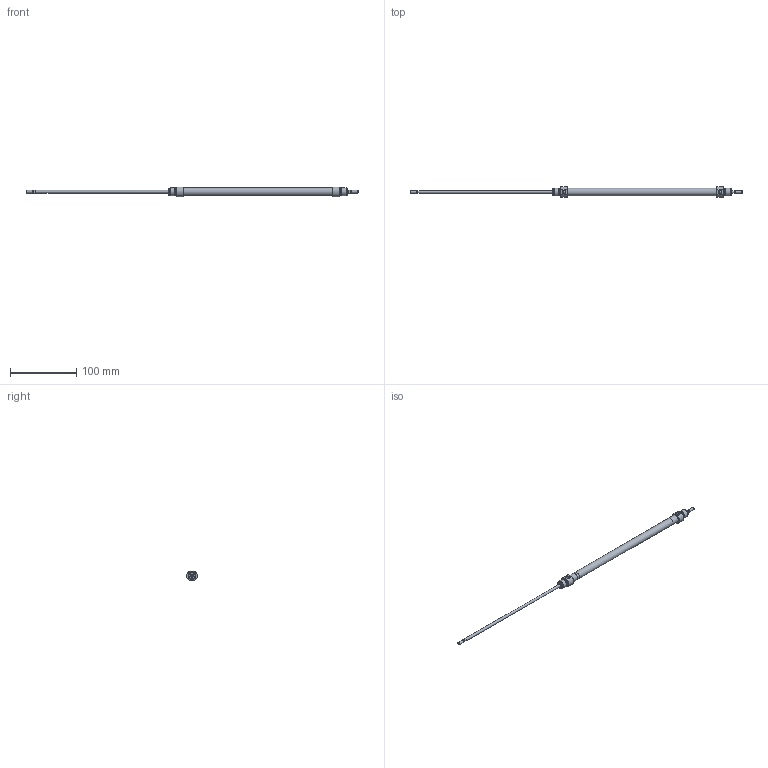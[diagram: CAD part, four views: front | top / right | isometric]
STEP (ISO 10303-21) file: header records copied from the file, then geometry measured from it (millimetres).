
FILE_DESCRIPTION( ( 'STEP AP203' ), '1' );
FILE_NAME( '//expscmdclustefs.cadenas.external/client_exchange/iodir/jobs/output/wkb68273351_no0/STEP/M101-010-0200--__0__2_03.stp', ' ', ( ' ' ), ( ' ' ), 'PSStep 15.0.47', 'PARTsolutions', ' ' );
FILE_SCHEMA( ( 'CONFIG_CONTROL_DESIGN' ) );
Length unit declared in the file: millimetre
Products named in the file (3): M101-010-0200-- [0]; HI_M101-010-0200---[0]-z; HI_M101-010-0200---[0]-k
Assembly tree (2 placements, depth 2):
  M101-010-0200-- [0]
    HI_M101-010-0200---[0]-z
    HI_M101-010-0200---[0]-k
Bounding box: 502 x 15.77 x 14.87 mm (x, y, z)
Volume: 18584.8 mm3; surface area: 24445.9 mm2
Topology: 2 solids, 2 shells, 71 faces, 145 edges, 88 vertices
Faces by surface type: plane 32, cylinder 23, cone 14, torus 2
Full cylindrical faces by diameter (mm): 3.141 x2, 4 x6, 4.134 x2, 10 x2, 10.466 x4, 11.3 x1, 12 x4
Entity records: 1838 total; most frequent: CARTESIAN_POINT 358, DIRECTION 312, ORIENTED_EDGE 212, AXIS2_PLACEMENT_3D 140, EDGE_LOOP 120, EDGE_CURVE 106, FACE_OUTER_BOUND 94, VERTEX_POINT 82
